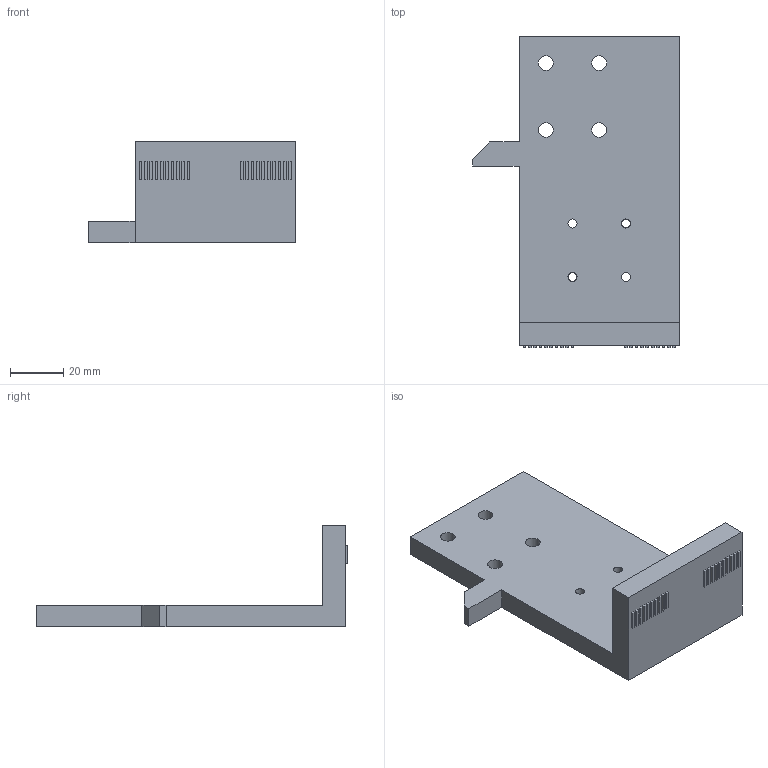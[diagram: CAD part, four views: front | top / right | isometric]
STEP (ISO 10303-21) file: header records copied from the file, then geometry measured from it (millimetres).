
FILE_DESCRIPTION(('Open CASCADE Model'),'2;1');
FILE_NAME('Open CASCADE Shape Model','2026-10-23T08:22:11',('Author'),( 'Open CASCADE'),'Open CASCADE STEP processor 7.9','Open CASCADE 7.9' ,'Unknown');
FILE_SCHEMA(('AUTOMOTIVE_DESIGN { 1 0 10303 214 1 1 1 1 }'));
Length unit declared in the file: millimetre
Products named in the file (1): Open CASCADE STEP translator 7.9 6
Bounding box: 77.38 x 116.45 x 38 mm (x, y, z)
Volume: 70692.5 mm3; surface area: 22552.8 mm2
Topology: 1 solids, 1 shells, 157 faces, 381 edges, 254 vertices
Faces by surface type: plane 145, cylinder 12
Full cylindrical faces by diameter (mm): 3.4 x4, 5.5 x4, 6.5 x4
Entity records: 9514 total; most frequent: CARTESIAN_POINT 1555, DIRECTION 1483, LINE 1095, VECTOR 1095, ORIENTED_EDGE 762, PCURVE 762, DEFINITIONAL_REPRESENTATION 762, EDGE_CURVE 381
